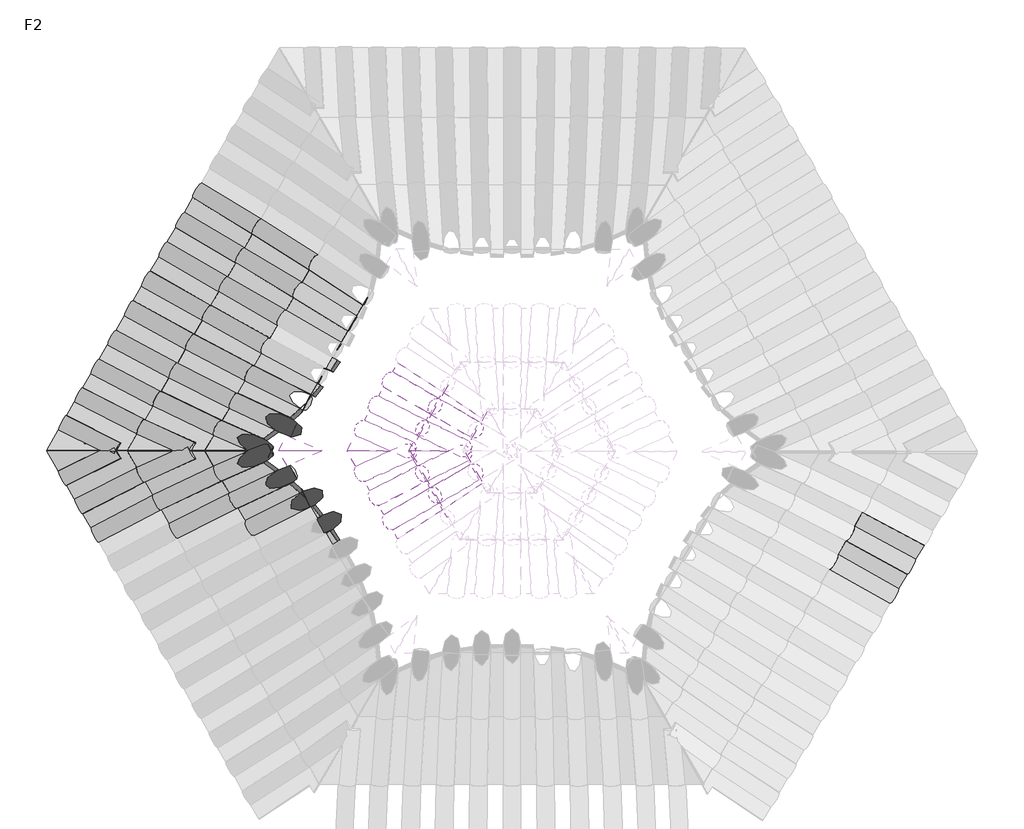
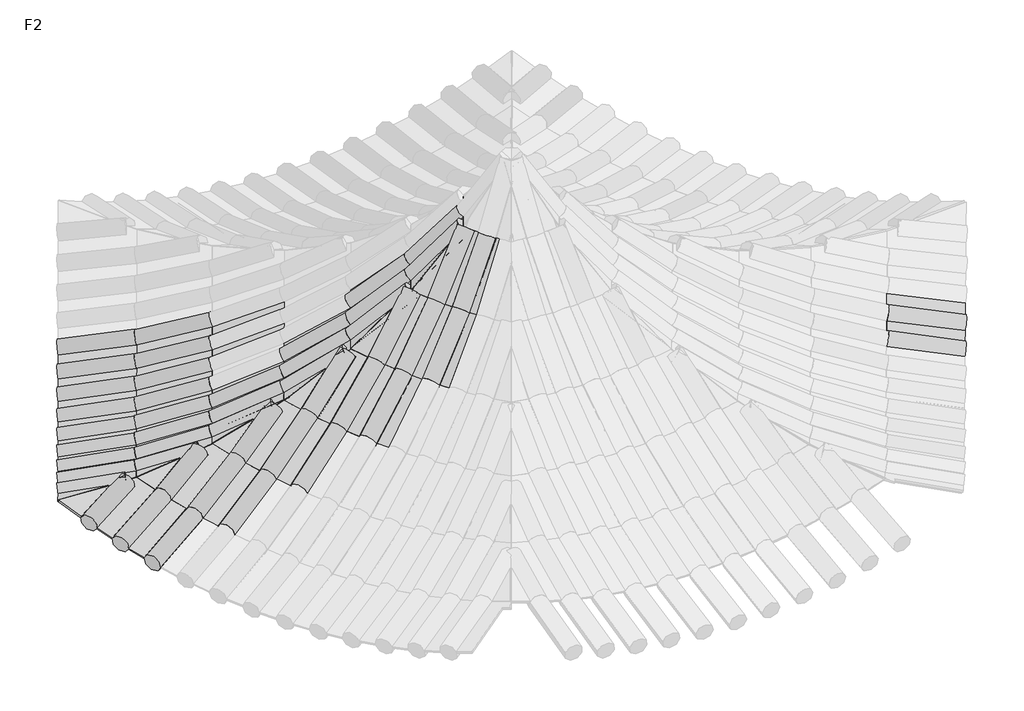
# One storey, part 3 of 6: 58 plates, 47 members.
"""IFC4 building model written with IfcOpenShell, lengths in millimetres."""

from ifc_helpers import new_model, si_unit, origin, place, context, project, spatial, transform, mapped, element, save
from components import member_7626b7be, member_26c271c4, member_52a6bcec, member_d07f44d0, member_52043cd3, member_28539939, member_fd67414a, member_29c24a8f, member_5ebe3699, member_5a0915c5, member_3b22838b, member_1e72f84d, member_f81221a5, member_02d8162e, member_7e32749a, member_c71233b3, member_69260188, member_985b398b, member_f4842659, member_5ab32efa, member_9361b17f, member_3c0b60bf, plate_0ebb438e, plate_6b57b127, plate_d3f52e52, plate_d213f6b1, plate_9638d80c, plate_89c366d1, plate_aaafe28a, plate_ecf98e0f, plate_a8a21952, plate_665b0e48, plate_f97c0013, plate_6a16cba0, plate_1539b490, plate_f5328a12, plate_b5858797, plate_013eb8b5, plate_6c5d32f2, plate_9ed079f8, plate_51358e00, plate_0b5f84b8, plate_823a82dc, plate_c055fcc8, plate_38bc2d65, plate_a3322e93, plate_fe606144, plate_ecea87b7, plate_f94965ac, plate_2cce4260

model = new_model("IFC4")

# Units and contexts
model_context = context("Model", 3, world=origin())
ifc_project = project(units=[si_unit("LENGTHUNIT", "METRE", prefix="MILLI")], contexts=[model_context])

# Site, building, storey
site = spatial("IfcSite", under=ifc_project)
building = spatial("IfcBuilding", under=site)
storey = spatial("IfcBuildingStorey", under=building, Name="F2", Elevation=4000.0)

# Members
placement = place(None, origin())
member_shape = member_7626b7be(model_context)
element("IfcMember", 1, ObjectType="矩形竖梃 : 圆瓦", at=placement, inside=storey, context=model_context, shape_type="MappedRepresentation", body=[
    mapped(member_shape, transform((-20261.6434663, 693.8322266, 4853.1986775), x_axis=(0.46663043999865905, -0.8097852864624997, -0.3556737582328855), y_axis=(0.036480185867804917, -0.3841760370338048, 0.9225388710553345), z_axis=(-0.8836997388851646, -0.4434597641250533, -0.14972711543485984))),
])
member_2_shape = member_26c271c4(model_context)
element("IfcMember", 2, ObjectType="矩形竖梃 : 圆瓦", at=placement, inside=storey, context=model_context, shape_type="MappedRepresentation", body=[
    mapped(member_2_shape, transform((-19386.5630225, 735.0285574, 4855.3516935), x_axis=(0.47652952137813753, -0.8269640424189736, -0.29841261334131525), y_axis=(-0.10789811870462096, -0.39187564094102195, 0.9136692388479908), z_axis=(-0.8725122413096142, -0.40319220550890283, -0.2759681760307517))),
])
member_3_shape = member_52a6bcec(model_context)
element("IfcMember", 3, ObjectType="矩形竖梃 : 圆瓦", at=placement, inside=storey, context=model_context, shape_type="MappedRepresentation", body=[
    mapped(member_3_shape, transform((-20081.1968982, 380.687255, 4728.0580377), x_axis=(0.4765295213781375, -0.8269640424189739, -0.29841261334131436), y_axis=(0.0005981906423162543, -0.339124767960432, 0.9407412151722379), z_axis=(-0.8791582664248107, -0.44846946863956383, -0.16110828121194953))),
])
member_4_shape = member_d07f44d0(model_context)
element("IfcMember", 4, ObjectType="矩形竖梃 : 圆瓦", at=placement, inside=storey, context=model_context, shape_type="MappedRepresentation", body=[
    mapped(member_4_shape, transform((-19206.5493399, 422.6348107, 4754.5081374), x_axis=(0.484678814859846, -0.8411062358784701, -0.2400557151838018), y_axis=(-0.14591576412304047, -0.3483495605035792, 0.9259379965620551), z_axis=(-0.8624355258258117, -0.4137546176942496, -0.2915683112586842))),
])
member_5_shape = member_52043cd3(model_context)
element("IfcMember", 5, ObjectType="矩形竖梃 : 圆瓦", at=placement, inside=storey, context=model_context, shape_type="MappedRepresentation", body=[
    mapped(member_5_shape, transform((-18525.1283095, 749.5474778, 4984.8798848), x_axis=(0.48467881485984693, -0.8411062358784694, -0.24005571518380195), y_axis=(-0.25290069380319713, -0.39747906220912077, 0.8820723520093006), z_axis=(-0.8373336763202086, -0.36681152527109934, -0.4053660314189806))),
])
member_6_shape = member_28539939(model_context)
element("IfcMember", 6, ObjectType="矩形竖梃 : 圆瓦", at=placement, inside=storey, context=model_context, shape_type="MappedRepresentation", body=[
    mapped(member_6_shape, transform((-19897.2972919, 61.5499194, 4625.0375895), x_axis=(0.4846788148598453, -0.8411062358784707, -0.24005571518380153), y_axis=(-0.02812004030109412, -0.28928746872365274, 0.9568291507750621), z_axis=(-0.8742400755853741, -0.45700444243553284, -0.16386344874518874))),
])
member_7_shape = member_fd67414a(model_context)
element("IfcMember", 7, ObjectType="矩形竖梃 : 圆瓦", at=placement, inside=storey, context=model_context, shape_type="MappedRepresentation", body=[
    mapped(member_7_shape, transform((-19023.8165838, 105.5224138, 4675.6876498), x_axis=(0.4910483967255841, -0.8521599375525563, -0.18081734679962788), y_axis=(-0.1741266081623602, -0.2993927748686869, 0.9381065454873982), z_axis=(-0.8535522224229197, -0.42917060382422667, -0.29540006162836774))),
])
element("IfcMember", 8, ObjectType="矩形竖梃 : 圆瓦", at=placement, inside=storey, context=model_context, shape_type="MappedRepresentation", body=[
    mapped(member_7_shape, transform((-18171.7309918, 136.2656951, 4854.7494012), x_axis=(0.4956148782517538, -0.8600845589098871, -0.12091502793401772), y_axis=(-0.3148441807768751, -0.3076567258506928, 0.8978978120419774), z_axis=(-0.8094683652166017, -0.406942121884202, -0.42327186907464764))),
])
element("IfcMember", 9, ObjectType="矩形竖梃 : 圆瓦", at=placement, inside=storey, context=model_context, shape_type="MappedRepresentation", body=[
    mapped(member_7_shape, transform((-17532.1599734, 457.7957246, 5189.1817669), x_axis=(0.49561487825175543, -0.8600845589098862, -0.1209150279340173), y_axis=(-0.4212672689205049, -0.3597903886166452, 0.8325171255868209), z_axis=(-0.7595391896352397, -0.36167033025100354, -0.5406429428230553))),
])
element("IfcMember", 10, ObjectType="矩形竖梃 : 圆瓦", at=placement, inside=storey, context=model_context, shape_type="MappedRepresentation", body=[
    mapped(member_7_shape, transform((-17363.3104134, 164.7760722, 5158.3526132), x_axis=(0.49836149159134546, -0.8648510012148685, -0.06056871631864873), y_axis=(-0.44653607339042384, -0.31593918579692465, 0.8371307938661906), z_axis=(-0.7431294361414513, -0.39014763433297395, -0.5436390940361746))),
])
element("IfcMember", 11, ObjectType="矩形竖梃 : 圆瓦", at=placement, inside=storey, context=model_context, shape_type="MappedRepresentation", body=[
    mapped(member_7_shape, transform((-16776.1546075, 473.0365682, 5587.8886197), x_axis=(0.498361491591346, -0.8648510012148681, -0.060568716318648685), y_axis=(-0.5427948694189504, -0.36572913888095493, 0.7560528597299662), z_axis=(-0.6760248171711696, -0.3439112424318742, -0.651702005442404))),
])
member_8_shape = member_29c24a8f(model_context)
element("IfcMember", 12, ObjectType="矩形竖梃 : 圆瓦", at=placement, inside=storey, context=model_context, shape_type="MappedRepresentation", body=[
    mapped(member_8_shape, transform((-18349.4143618, 444.6154432, 4909.0869108), x_axis=(0.4910483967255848, -0.8521599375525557, -0.18081734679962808), y_axis=(-0.2877914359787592, -0.3546037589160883, 0.8896247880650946), z_axis=(-0.8222211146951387, -0.3848111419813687, -0.4193719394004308))),
])
member_9_shape = member_5ebe3699(model_context)
element("IfcMember", 13, ObjectType="矩形竖梃 : 圆瓦", at=placement, inside=storey, context=model_context, shape_type="MappedRepresentation", body=[
    mapped(member_9_shape, transform((-17699.7672375, 748.6595103, 5240.4378936), x_axis=(0.49104839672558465, -0.8521599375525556, -0.1808173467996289), y_axis=(-0.3929321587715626, -0.40191931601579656, 0.8270823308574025), z_axis=(-0.7774804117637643, -0.33508850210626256, -0.5322028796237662))),
])
member_10_shape = member_5a0915c5(model_context)
element("IfcMember", 14, ObjectType="矩形竖梃 : 圆瓦", at=placement, inside=storey, context=model_context, shape_type="MappedRepresentation", body=[
    mapped(member_10_shape, transform((-16932.0386173, 743.5559487, 5616.3504772), x_axis=(0.4956148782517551, -0.8600845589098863, -0.12091502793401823), y_axis=(-0.5199734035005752, -0.405333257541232, 0.7518860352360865), z_axis=(-0.6956964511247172, -0.30977330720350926, -0.6481102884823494))),
])
element("IfcMember", 15, ObjectType="矩形竖梃 : 圆瓦", at=placement, inside=storey, context=model_context, shape_type="MappedRepresentation", body=[
    mapped(member_10_shape, transform((-16242.0189954, 744.7651163, 6102.8064759), x_axis=(0.49836149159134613, -0.864851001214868, -0.060568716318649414), y_axis=(-0.6291105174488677, -0.40881950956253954, 0.6611252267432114), z_axis=(-0.5965364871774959, -0.29137493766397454, -0.7478267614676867))),
])
member_11_shape = member_3b22838b(model_context)
element("IfcMember", 16, ObjectType="矩形竖梃 : 圆瓦", at=placement, inside=storey, context=model_context, shape_type="MappedRepresentation", body=[
    mapped(member_11_shape, transform((-10972.9771025, -619.8556772, 4486.7877946), x_axis=(0.5016108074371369, 0.8566015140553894, 0.12091502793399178), y_axis=(0.08543865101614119, -0.1881416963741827, 0.9784185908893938), z_axis=(0.8608640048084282, -0.48045452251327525, -0.167560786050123))),
])
element("IfcMember", 17, ObjectType="矩形竖梃 : 圆瓦", at=placement, inside=storey, context=model_context, shape_type="MappedRepresentation", body=[
    mapped(member_11_shape, transform((-10781.9236967, -293.593495, 4544.5156178), x_axis=(0.4969890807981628, 0.8487089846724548, 0.18081734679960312), y_axis=(0.05560326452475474, -0.2390916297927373, 0.9694036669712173), z_axis=(0.8659735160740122, -0.47172900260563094, -0.16601691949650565))),
])
element("IfcMember", 18, ObjectType="矩形竖梃 : 圆瓦", at=placement, inside=storey, context=model_context, shape_type="MappedRepresentation", body=[
    mapped(member_11_shape, transform((-19137.0617859, 3248.7516908, 4440.4780088), x_axis=(-0.5007215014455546, -0.865608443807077, 0.0), y_axis=(-0.14611409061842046, 0.08452143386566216, 0.9856504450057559), z_axis=(-0.8531873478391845, 0.4935363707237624, -0.16879928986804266))),
])
element("IfcMember", 19, ObjectType="矩形竖梃 : 圆瓦", at=placement, inside=storey, context=model_context, shape_type="MappedRepresentation", body=[
    mapped(member_11_shape, transform((-19328.4832565, 2917.837119, 4452.0660929), x_axis=(-0.4998021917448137, -0.8640192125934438, 0.06056871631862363), y_axis=(-0.11622122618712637, 0.13619789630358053, 0.983840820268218), z_axis=(-0.8583067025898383, 0.48468642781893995, -0.16848937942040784))),
])
element("IfcMember", 20, ObjectType="矩形竖梃 : 圆瓦", at=placement, inside=storey, context=model_context, shape_type="MappedRepresentation", body=[
    mapped(member_11_shape, transform((-19519.2018389, 2588.1376457, 4486.7877946), x_axis=(-0.4970476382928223, -0.8592573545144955, 0.12091502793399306), y_axis=(-0.08643812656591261, 0.18768460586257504, 0.9784185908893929), z_axis=(-0.8634072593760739, 0.47586898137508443, -0.1675607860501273))),
])
element("IfcMember", 21, ObjectType="矩形竖梃 : 圆瓦", at=placement, inside=storey, context=model_context, shape_type="MappedRepresentation", body=[
    mapped(member_11_shape, transform((-19708.5172259, 2260.8639076, 4544.5156178), x_axis=(-0.4924679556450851, -0.8513403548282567, 0.18081734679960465), y_axis=(-0.05687415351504, 0.23879250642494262, 0.9694036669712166), z_axis=(-0.8684702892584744, 0.46711640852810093, -0.1660169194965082))),
])
element("IfcMember", 22, ObjectType="矩形竖梃 : 圆瓦", at=placement, inside=storey, context=model_context, shape_type="MappedRepresentation", body=[
    mapped(member_11_shape, transform((-19895.7342626, 1937.2176344, 4625.0375895), x_axis=(-0.4860799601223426, -0.8402972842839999, 0.24005571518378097), y_axis=(-0.02763786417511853, 0.2893339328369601, 0.9568291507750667), z_axis=(-0.8734772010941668, 0.45846084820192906, -0.16386344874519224))),
])
member_12_shape = member_1e72f84d(model_context)
element("IfcMember", 23, ObjectType="矩形竖梃 : 圆瓦", at=placement, inside=storey, context=model_context, shape_type="MappedRepresentation", body=[
    mapped(member_12_shape, transform((-20080.1654995, 1618.3872358, 4728.0580377), x_axis=(-0.47790710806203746, -0.8261686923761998, 0.2984126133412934), y_axis=(0.0011633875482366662, 0.3391233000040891, 0.9407412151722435), z_axis=(-0.8784096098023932, 0.4499340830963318, -0.16110828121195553))),
])
member_13_shape = member_f81221a5(model_context)
element("IfcMember", 24, ObjectType="矩形竖梃 : 圆瓦", at=placement, inside=storey, context=model_context, shape_type="MappedRepresentation", body=[
    mapped(member_13_shape, transform((-16619.6960914, 201.5201959, 5578.3897074), x_axis=(0.49927815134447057, -0.8664417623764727, 0.0), y_axis=(-0.5657004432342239, -0.32597906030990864, 0.7574435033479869), z_axis=(-0.6562806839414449, -0.37817499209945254, -0.6529007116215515))),
])
element("IfcMember", 25, ObjectType="矩形竖梃 : 圆瓦", at=placement, inside=storey, context=model_context, shape_type="MappedRepresentation", body=[
    mapped(member_13_shape, transform((-16101.1605644, 500.3209585, 6094.2546763), x_axis=(0.4992781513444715, -0.8664417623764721, 0.0), y_axis=(-0.6491401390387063, -0.37406032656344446, 0.6623412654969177), z_axis=(-0.5738801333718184, -0.33069252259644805, -0.7492022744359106))),
])
member_14_shape = member_02d8162e(model_context)
element("IfcMember", 26, ObjectType="矩形竖梃 : 圆瓦", at=placement, inside=storey, context=model_context, shape_type="MappedRepresentation", body=[
    mapped(member_14_shape, transform((-18462.9478559, 2858.8024688, 4573.8484261), x_axis=(-0.5007215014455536, -0.8656084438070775, 0.0), y_axis=(-0.2599862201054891, 0.1503921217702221, 0.9538287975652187), z_axis=(-0.8256422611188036, 0.4776025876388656, -0.3003508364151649))),
])
element("IfcMember", 27, ObjectType="矩形竖梃 : 圆瓦", at=placement, inside=storey, context=model_context, shape_type="MappedRepresentation", body=[
    mapped(member_14_shape, transform((-18650.3244606, 2534.8803469, 4585.1916462), x_axis=(-0.49980219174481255, -0.8640192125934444, 0.06056871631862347), y_axis=(-0.23105844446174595, 0.2004002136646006, 0.9520775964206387), z_axis=(-0.8347513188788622, 0.46185555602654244, -0.29979940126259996))),
])
element("IfcMember", 28, ObjectType="矩形竖梃 : 圆瓦", at=placement, inside=storey, context=model_context, shape_type="MappedRepresentation", body=[
    mapped(member_14_shape, transform((-18837.0130297, 2212.1476477, 4619.1796547), x_axis=(-0.49704763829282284, -0.8592573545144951, 0.12091502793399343), y_axis=(-0.20223688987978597, 0.2502246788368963, 0.9468304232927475), z_axis=(-0.8438269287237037, 0.44616634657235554, -0.29814712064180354))),
])
element("IfcMember", 29, ObjectType="矩形竖梃 : 圆瓦", at=placement, inside=storey, context=model_context, shape_type="MappedRepresentation", body=[
    mapped(member_14_shape, transform((-19022.3280538, 1891.7894262, 4675.6876498), x_axis=(-0.49246795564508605, -0.8513403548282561, 0.1808173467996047), y_axis=(-0.173627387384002, 0.2996825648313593, 0.9381065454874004), z_axis=(-0.8528357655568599, 0.43059256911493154, -0.2954000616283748))),
])
element("IfcMember", 30, ObjectType="矩形竖梃 : 圆瓦", at=placement, inside=storey, context=model_context, shape_type="MappedRepresentation", body=[
    mapped(member_14_shape, transform((-18170.2948831, 1859.6260706, 4854.7494012), x_axis=(-0.49704763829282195, -0.8592573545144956, 0.12091502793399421), y_axis=(-0.3143309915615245, 0.3081810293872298, 0.8978978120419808), z_axis=(-0.8087890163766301, 0.40829064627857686, -0.42327186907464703))),
])
element("IfcMember", 31, ObjectType="矩形竖梃 : 圆瓦", at=placement, inside=storey, context=model_context, shape_type="MappedRepresentation", body=[
    mapped(member_14_shape, transform((-17361.9229439, 1829.7683899, 5158.3526132), x_axis=(-0.4998021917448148, -0.8640192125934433, 0.06056871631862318), y_axis=(-0.4460088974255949, 0.31668296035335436, 0.8371307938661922), z_axis=(-0.7424781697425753, 0.39138561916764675, -0.543639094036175))),
])
element("IfcMember", 32, ObjectType="矩形竖梃 : 圆瓦", at=placement, inside=storey, context=model_context, shape_type="MappedRepresentation", body=[
    mapped(member_14_shape, transform((-17531.2606267, 1537.0305553, 5189.1817669), x_axis=(-0.49704763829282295, -0.8592573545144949, 0.12091502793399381), y_axis=(-0.420667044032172, 0.3604919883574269, 0.8325171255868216), z_axis=(-0.758935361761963, 0.3629357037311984, -0.5406429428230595))),
])
element("IfcMember", 33, ObjectType="矩形竖梃 : 圆瓦", at=placement, inside=storey, context=model_context, shape_type="MappedRepresentation", body=[
    mapped(member_14_shape, transform((-16618.3708938, 1791.7849823, 5578.3897074), x_axis=(-0.5007215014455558, -0.8656084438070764, 0.0), y_axis=(-0.5651563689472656, 0.32692142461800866, 0.7574435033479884), z_axis=(-0.6556494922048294, 0.3792682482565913, -0.6529007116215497))),
])
element("IfcMember", 34, ObjectType="矩形竖梃 : 圆瓦", at=placement, inside=storey, context=model_context, shape_type="MappedRepresentation", body=[
    mapped(member_14_shape, transform((-16775.2817117, 1520.5297466, 5587.8886197), x_axis=(-0.49980219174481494, -0.864019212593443, 0.060568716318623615), y_axis=(-0.5421845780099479, 0.366633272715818, 0.7560528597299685), z_axis=(-0.6754507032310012, 0.3450374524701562, -0.6517020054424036))),
])
element("IfcMember", 35, ObjectType="矩形竖梃 : 圆瓦", at=placement, inside=storey, context=model_context, shape_type="MappedRepresentation", body=[
    mapped(member_14_shape, transform((-16100.3340792, 1492.1204245, 6094.2546763), x_axis=(-0.5007215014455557, -0.8656084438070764, 0.0), y_axis=(-0.6485158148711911, 0.3751416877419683, 0.6623412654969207), z_axis=(-0.5733281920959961, 0.33164851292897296, -0.749202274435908))),
])
member_15_shape = member_7e32749a(model_context)
element("IfcMember", 36, ObjectType="矩形竖梃 : 圆瓦", at=placement, inside=storey, context=model_context, shape_type="MappedRepresentation", body=[
    mapped(member_15_shape, transform((-19205.5890673, 1574.9820188, 4754.5081374), x_axis=(-0.48607996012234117, -0.8402972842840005, 0.24005571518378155), y_axis=(-0.14533498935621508, 0.3485922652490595, 0.9259379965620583), z_axis=(-0.8617447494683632, 0.41519140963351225, -0.2915683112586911))),
])
member_16_shape = member_c71233b3(model_context)
element("IfcMember", 37, ObjectType="矩形竖梃 : 圆瓦", at=placement, inside=storey, context=model_context, shape_type="MappedRepresentation", body=[
    mapped(member_16_shape, transform((-18348.4919132, 1551.5728844, 4909.0869108), x_axis=(-0.4924679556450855, -0.8513403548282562, 0.18081734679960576), y_axis=(-0.2872000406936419, 0.3550829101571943, 0.8896247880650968), z_axis=(-0.8215786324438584, 0.38618095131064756, -0.41937193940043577))),
])
member_17_shape = member_69260188(model_context)
element("IfcMember", 38, ObjectType="矩形竖梃 : 圆瓦", at=placement, inside=storey, context=model_context, shape_type="MappedRepresentation", body=[
    mapped(member_17_shape, transform((-17699.3524222, 1246.4465139, 5240.4378936), x_axis=(-0.49246795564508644, -0.8513403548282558, 0.18081734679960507), y_axis=(-0.39226364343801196, 0.4025744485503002, 0.8270810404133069), z_axis=(-0.776919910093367, 0.33638283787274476, -0.5322048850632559))),
])
member_18_shape = member_985b398b(model_context)
element("IfcMember", 39, ObjectType="矩形竖梃 : 圆瓦", at=placement, inside=storey, context=model_context, shape_type="MappedRepresentation", body=[
    mapped(member_18_shape, transform((-16931.6163625, 1250.2705439, 5616.3504772), x_axis=(-0.4970476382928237, -0.8592573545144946, 0.12091502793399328), y_axis=(-0.519297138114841, 0.40619930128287, 0.7518860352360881), z_axis=(-0.6951792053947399, 0.3109323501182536, -0.6481102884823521))),
])
element("IfcMember", 40, ObjectType="矩形竖梃 : 圆瓦", at=placement, inside=storey, context=model_context, shape_type="MappedRepresentation", body=[
    mapped(member_18_shape, transform((-16241.5997141, 1247.911366, 6102.8064759), x_axis=(-0.4998021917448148, -0.8640192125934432, 0.06056871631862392), y_axis=(-0.6284282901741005, 0.40986744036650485, 0.6611252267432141), z_axis=(-0.5960500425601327, 0.29236874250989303, -0.7478267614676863))),
])
member_19_shape = member_f4842659(model_context)
element("IfcMember", 41, ObjectType="矩形竖梃 : 圆瓦", at=placement, inside=storey, context=model_context, shape_type="MappedRepresentation", body=[
    mapped(member_19_shape, transform((-19386.1231467, 1262.8887233, 4855.3516935), x_axis=(-0.47790710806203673, -0.8261686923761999, 0.29841261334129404), y_axis=(-0.10724608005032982, 0.39205549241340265, 0.9136688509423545), z_axis=(-0.8718389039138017, 0.4046452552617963, -0.2759694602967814))),
])
member_20_shape = member_5ab32efa(model_context)
element("IfcMember", 42, ObjectType="矩形竖梃 : 圆瓦", at=placement, inside=storey, context=model_context, shape_type="MappedRepresentation", body=[
    mapped(member_20_shape, transform((-18524.7138278, 1246.9341246, 4984.8798848), x_axis=(-0.4860799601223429, -0.8402972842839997, 0.2400557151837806), y_axis=(-0.2522394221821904, 0.3979006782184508, 0.8820716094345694), z_axis=(-0.836720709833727, 0.36820581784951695, -0.40536764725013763))),
])
member_21_shape = member_9361b17f(model_context)
element("IfcMember", 43, ObjectType="矩形竖梃 : 圆瓦", at=placement, inside=storey, context=model_context, shape_type="MappedRepresentation", body=[
    mapped(member_21_shape, transform((-20261.1337159, 1305.543438, 4853.1986775), x_axis=(-0.46797940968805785, -0.8090064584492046, 0.35567375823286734), y_axis=(0.037119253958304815, 0.3841152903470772, 0.9225386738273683), z_axis=(-0.8829594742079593, 0.44493144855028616, -0.14972833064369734))),
])
element("IfcMember", 44, ObjectType="矩形竖梃 : 圆瓦", at=placement, inside=storey, context=model_context, shape_type="MappedRepresentation", body=[
    mapped(member_6_shape, transform((-18754.921733, 3909.3657359, 4486.7877946), x_axis=(-0.49704763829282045, -0.859257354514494, -0.12091502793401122), y_axis=(-0.20579005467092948, -0.01864173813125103, 0.9784185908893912), z_axis=(-0.842967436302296, 0.5112037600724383, -0.16756078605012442))),
])
element("IfcMember", 45, ObjectType="矩形竖梃 : 圆瓦", at=placement, inside=storey, context=model_context, shape_type="MappedRepresentation", body=[
    mapped(member_6_shape, transform((-18945.6403154, 3579.6662626, 4452.0660929), x_axis=(-0.4998021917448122, -0.8640192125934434, -0.060568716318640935), y_axis=(-0.17600695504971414, 0.03284497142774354, 0.9838408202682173), z_axis=(-0.8480679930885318, 0.5023863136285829, -0.16848937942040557))),
])
member_22_shape = member_3c0b60bf(model_context)
element("IfcMember", 46, ObjectType="矩形竖梃 : 圆瓦", at=placement, inside=storey, context=model_context, shape_type="MappedRepresentation", body=[
    mapped(member_22_shape, transform((-18088.8826821, 3505.45729, 4619.1796547), x_axis=(-0.497047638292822, -0.859257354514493, -0.12091502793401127), y_axis=(-0.3177355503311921, 0.0505595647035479, 0.9468304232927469), z_axis=(-0.8074575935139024, 0.5090388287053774, -0.2981471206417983))),
])
element("IfcMember", 47, ObjectType="矩形竖梃 : 圆瓦", at=placement, inside=storey, context=model_context, shape_type="MappedRepresentation", body=[
    mapped(member_22_shape, transform((-18275.5712511, 3182.7245907, 4585.1916462), x_axis=(-0.4998021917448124, -0.8640192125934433, -0.06056871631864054), y_axis=(-0.2889139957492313, 0.10038402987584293, 0.9520775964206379), z_axis=(-0.8165332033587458, 0.4933496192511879, -0.2997994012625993))),
])

# Plates
plate_shape = plate_0ebb438e(model_context)
element("IfcPlate", 48, ObjectType="空系统嵌板 : 空", at=placement, inside=storey, context=model_context, shape_type="MappedRepresentation", body=[
    mapped(plate_shape, transform((-20194.221904, 576.8295957, 4806.441471), x_axis=(0.47179658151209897, -0.8187505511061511, -0.32719339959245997), y_axis=(-0.014828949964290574, 0.3636698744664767, -0.9314098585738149), z_axis=(0.8815827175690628, 0.4442879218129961, 0.1594369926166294))),
])
plate_2_shape = plate_6b57b127(model_context)
element("IfcPlate", 49, ObjectType="空系统嵌板 : 空", at=placement, inside=storey, context=model_context, shape_type="MappedRepresentation", body=[
    mapped(plate_2_shape, transform((-10877.4503996, -456.7245861, 4515.6517062), x_axis=(0.49952927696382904, 0.8530468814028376, 0.15093548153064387), y_axis=(-0.07042049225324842, 0.21363923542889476, -0.9743711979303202), z_axis=(-0.8634300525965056, 0.4760979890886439, 0.16679103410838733))),
])
element("IfcPlate", 50, ObjectType="空系统嵌板 : 空", at=placement, inside=storey, context=model_context, shape_type="MappedRepresentation", body=[
    mapped(plate_2_shape, transform((-10687.4558009, -132.2705304, 4584.7766036), x_axis=(0.4939925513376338, 0.8435918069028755, 0.21053318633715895), y_axis=(-0.040736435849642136, 0.2643307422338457, -0.9635713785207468), z_axis=(-0.8685113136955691, 0.4674207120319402, 0.16494234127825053))),
])
element("IfcPlate", 51, ObjectType="空系统嵌板 : 空", at=placement, inside=storey, context=model_context, shape_type="MappedRepresentation", body=[
    mapped(plate_2_shape, transform((-18850.2810242, 3744.5159993, 4469.4269438), x_axis=(-0.4986538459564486, -0.8620340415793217, -0.09078355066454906), y_axis=(0.1908544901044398, -0.0070273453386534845, -0.9815931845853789), z_axis=(0.8455287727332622, -0.5068016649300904, 0.16802728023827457))),
])
element("IfcPlate", 52, ObjectType="空系统嵌板 : 空", at=placement, inside=storey, context=model_context, shape_type="MappedRepresentation", body=[
    mapped(plate_2_shape, transform((-19041.3510507, 3414.2089767, 4446.2720508), x_axis=(-0.5004916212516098, -0.8652110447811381, -0.03029826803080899), y_axis=(0.16100241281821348, -0.05863329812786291, -0.9852108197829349), z_axis=(0.8506387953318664, -0.4979678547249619, 0.1686465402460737))),
])
element("IfcPlate", 53, ObjectType="空系统嵌板 : 空", at=placement, inside=storey, context=model_context, shape_type="MappedRepresentation", body=[
    mapped(plate_2_shape, transform((-19232.7725212, 3083.2944049, 4446.2720508), x_axis=(-0.5004916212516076, -0.8652110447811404, 0.03029826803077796), y_axis=(0.13109542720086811, -0.11033417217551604, -0.9852108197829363), z_axis=(0.855758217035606, -0.489117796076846, 0.16864654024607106))),
])
element("IfcPlate", 54, ObjectType="空系统嵌板 : 空", at=placement, inside=storey, context=model_context, shape_type="MappedRepresentation", body=[
    mapped(plate_2_shape, transform((-19423.8425477, 2752.9873823, 4469.4269438), x_axis=(-0.49865384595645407, -0.8620340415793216, 0.09078355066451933), y_axis=(0.10124334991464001, -0.16194012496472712, -0.9815931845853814), z_axis=(0.8608682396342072, -0.48028398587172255, 0.16802728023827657))),
])
element("IfcPlate", 55, ObjectType="空系统嵌板 : 空", at=placement, inside=storey, context=model_context, shape_type="MappedRepresentation", body=[
    mapped(plate_2_shape, transform((-19613.8595324, 2424.5007767, 4515.6517062), x_axis=(-0.49498504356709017, -0.8556917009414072, 0.15093548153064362), y_axis=(0.07155579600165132, -0.21326166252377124, -0.9743711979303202), z_axis=(0.8659500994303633, -0.4714988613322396, 0.16679103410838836))),
])
element("IfcPlate", 56, ObjectType="空系统嵌板 : 空", at=placement, inside=storey, context=model_context, shape_type="MappedRepresentation", body=[
    mapped(plate_2_shape, transform((-19802.1257442, 2099.040771, 4584.7766036), x_axis=(-0.4894986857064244, -0.8462073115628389, 0.21053318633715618), y_axis=(0.04214177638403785, -0.2641103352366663, -0.9635713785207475), z_axis=(0.8709851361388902, -0.46279468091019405, 0.16494234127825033))),
])
element("IfcPlate", 57, ObjectType="空系统嵌板 : 空", at=placement, inside=storey, context=model_context, shape_type="MappedRepresentation", body=[
    mapped(plate_2_shape, transform((-19987.949881, 1777.8024351, 4676.5478136), x_axis=(-0.4822149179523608, -0.8336156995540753, 0.2693578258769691), y_axis=(0.01310929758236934, -0.31429942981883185, -0.9492333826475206), z_axis=(0.8759548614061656, -0.4542034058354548, 0.16248799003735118))),
])
element("IfcPlate", 58, ObjectType="空系统嵌板 : 空", at=placement, inside=storey, context=model_context, shape_type="MappedRepresentation", body=[
    mapped(plate_2_shape, transform((-19989.2470951, 221.1185872, 4676.5478136), x_axis=(0.4808249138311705, -0.8344182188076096, -0.2693578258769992), y_axis=(0.013633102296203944, 0.31427714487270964, -0.9492333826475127), z_axis=(0.8767106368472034, 0.4527428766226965, 0.16248799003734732))),
])
plate_3_shape = plate_d3f52e52(model_context)
element("IfcPlate", 59, ObjectType="空系统嵌板 : 空", at=placement, inside=storey, context=model_context, shape_type="MappedRepresentation", body=[
    mapped(plate_3_shape, transform((-19486.4832076, 907.6463015, 4924.281917), x_axis=(0.4717965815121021, -0.81875055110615, -0.3271933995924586), y_axis=(0.10430338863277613, 0.42031193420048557, -0.9013648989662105), z_axis=(0.8755162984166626, 0.39113349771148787, 0.283700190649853))),
])
plate_4_shape = plate_d213f6b1(model_context)
element("IfcPlate", 60, ObjectType="空系统嵌板 : 空", at=placement, inside=storey, context=model_context, shape_type="MappedRepresentation", body=[
    mapped(plate_4_shape, transform((-19319.2222176, 618.1660721, 4817.6274153), x_axis=(0.48082491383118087, -0.8344182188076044, -0.2693578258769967), y_axis=(0.1318473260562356, 0.3725124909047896, -0.9186134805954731), z_axis=(0.8668469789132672, 0.4061781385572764, 0.2891290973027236))),
])
plate_5_shape = plate_9638d80c(model_context)
element("IfcPlate", 61, ObjectType="空系统嵌板 : 空", at=placement, inside=storey, context=model_context, shape_type="MappedRepresentation", body=[
    mapped(plate_5_shape, transform((-18182.2269666, 3344.0909404, 4602.1856505), x_axis=(-0.4986538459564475, -0.862034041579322, -0.09078355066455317), y_axis=(0.3032378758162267, -0.07537146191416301, -0.9499294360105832), z_axis=(0.8120290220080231, -0.5012149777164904, 0.2989856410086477))),
])
element("IfcPlate", 62, ObjectType="空系统嵌板 : 空", at=placement, inside=storey, context=model_context, shape_type="MappedRepresentation", body=[
    mapped(plate_5_shape, transform((-18369.2595535, 3020.7635298, 4579.5200362), x_axis=(-0.5004916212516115, -0.8652110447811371, -0.03029826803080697), y_axis=(0.2743487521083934, -0.12531273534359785, -0.9534303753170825), z_axis=(0.8211217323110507, -0.4854962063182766, 0.3000875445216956))),
])
element("IfcPlate", 63, ObjectType="空系统嵌板 : 空", at=placement, inside=storey, context=model_context, shape_type="MappedRepresentation", body=[
    mapped(plate_5_shape, transform((-18556.6361582, 2696.8414079, 4579.5200362), x_axis=(-0.5004916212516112, -0.8652110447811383, 0.030298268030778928), y_axis=(0.24540649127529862, -0.1753458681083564, -0.953430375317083), z_axis=(0.8302311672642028, -0.46974852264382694, 0.3000875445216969))),
])
element("IfcPlate", 64, ObjectType="空系统嵌板 : 空", at=placement, inside=storey, context=model_context, shape_type="MappedRepresentation", body=[
    mapped(plate_5_shape, transform((-18743.6687451, 2373.5139973, 4602.1856505), x_axis=(-0.4986538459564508, -0.862034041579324, 0.09078355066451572), y_axis=(0.21651736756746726, -0.22528714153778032, -0.9499294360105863), z_axis=(0.8393238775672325, -0.45402975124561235, 0.29898564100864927))),
])
element("IfcPlate", 65, ObjectType="空系统嵌板 : 空", at=placement, inside=storey, context=model_context, shape_type="MappedRepresentation", body=[
    mapped(plate_5_shape, transform((-18929.6705417, 2051.9685369, 4647.4336523), x_axis=(-0.4949850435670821, -0.8556917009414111, 0.15093548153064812), y_axis=(0.1877874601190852, -0.274953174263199, -0.9429404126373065), z_axis=(0.8483664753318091, -0.43839761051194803, 0.2967858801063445))),
])
element("IfcPlate", 66, ObjectType="空系统嵌板 : 空", at=placement, inside=storey, context=model_context, shape_type="MappedRepresentation", body=[
    mapped(plate_5_shape, transform((-19113.9585605, 1733.3857225, 4715.0978936), x_axis=(-0.4894986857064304, -0.8462073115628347, 0.2105331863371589), y_axis=(0.1593222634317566, -0.3241615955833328, -0.9324889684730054), z_axis=(0.8573257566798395, -0.4229095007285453, 0.2934963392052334))),
])
element("IfcPlate", 67, ObjectType="空系统嵌板 : 空", at=placement, inside=storey, context=model_context, shape_type="MappedRepresentation", body=[
    mapped(plate_5_shape, transform((-19115.1829619, 264.0786123, 4715.0978936), x_axis=(0.488087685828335, -0.847021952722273, -0.2105331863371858), y_axis=(0.15986230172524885, 0.3238956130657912, -0.9324889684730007), z_axis=(0.8580294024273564, 0.4214800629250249, 0.29349633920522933))),
])
plate_6_shape = plate_89c366d1(model_context)
element("IfcPlate", 68, ObjectType="空系统嵌板 : 空", at=placement, inside=storey, context=model_context, shape_type="MappedRepresentation", body=[
    mapped(plate_6_shape, transform((-18621.3148051, 915.2633919, 5038.1770919), x_axis=(0.4808249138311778, -0.8344182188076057, -0.2693578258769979), y_axis=(0.24765634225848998, 0.42393291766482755, -0.8711757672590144), z_axis=(0.8411145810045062, 0.3521748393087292, 0.4104864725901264))),
])
plate_7_shape = plate_aaafe28a(model_context)
element("IfcPlate", 69, ObjectType="空系统嵌板 : 空", at=placement, inside=storey, context=model_context, shape_type="MappedRepresentation", body=[
    mapped(plate_7_shape, transform((-18437.6730686, 597.7786235, 4947.1566825), x_axis=(0.48808768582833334, -0.8470219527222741, -0.21053318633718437), y_axis=(0.27422460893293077, 0.37782664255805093, -0.8843347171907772), z_axis=(0.8285959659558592, 0.37389950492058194, 0.41668679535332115))),
])
plate_8_shape = plate_ecf98e0f(model_context)
element("IfcPlate", 70, ObjectType="空系统嵌板 : 空", at=placement, inside=storey, context=model_context, shape_type="MappedRepresentation", body=[
    mapped(plate_8_shape, transform((-17540.6593078, 2948.0911533, 4838.4081407), x_axis=(-0.49865384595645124, -0.86203404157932, -0.09078355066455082), y_axis=(0.4100782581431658, -0.14234067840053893, -0.9008745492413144), z_axis=(0.7636623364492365, -0.4864529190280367, 0.42448014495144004))),
])
element("IfcPlate", 71, ObjectType="空系统嵌板 : 空", at=placement, inside=storey, context=model_context, shape_type="MappedRepresentation", body=[
    mapped(plate_8_shape, transform((-17720.5079288, 2637.1828252, 4816.613118), x_axis=(-0.5004916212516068, -0.8652110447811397, -0.030298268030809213), y_axis=(0.3826809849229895, -0.1897029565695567, -0.9041946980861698), z_axis=(0.7765715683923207, -0.464136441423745, 0.42604455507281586))),
])
element("IfcPlate", 72, ObjectType="空系统嵌板 : 空", at=placement, inside=storey, context=model_context, shape_type="MappedRepresentation", body=[
    mapped(plate_8_shape, transform((-18080.5359747, 2014.7943005, 4838.4081407), x_axis=(-0.49865384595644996, -0.8620340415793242, 0.09078355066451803), y_axis=(0.32783604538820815, -0.28451462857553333, -0.9008745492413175), z_axis=(0.8024137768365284, -0.4194624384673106, 0.42448014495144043))),
])
element("IfcPlate", 73, ObjectType="空系统嵌板 : 空", at=placement, inside=storey, context=model_context, shape_type="MappedRepresentation", body=[
    mapped(plate_8_shape, transform((-18259.3933982, 1705.5994775, 4881.918156), x_axis=(-0.4949850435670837, -0.8556917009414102, 0.15093548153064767), y_axis=(0.30058976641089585, -0.331615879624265, -0.894246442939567), z_axis=(0.8152518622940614, -0.3972689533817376, 0.4213570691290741))),
])
element("IfcPlate", 74, ObjectType="空系统嵌板 : 空", at=placement, inside=storey, context=model_context, shape_type="MappedRepresentation", body=[
    mapped(plate_8_shape, transform((-18260.5726768, 290.4405691, 4881.918156), x_axis=(0.49355822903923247, -0.8565154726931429, -0.15093548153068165), y_axis=(0.30114203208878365, 0.33111444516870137, -0.8942464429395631), z_axis=(0.8159128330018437, 0.3959096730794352, 0.4213570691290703))),
])
plate_9_shape = plate_a8a21952(model_context)
element("IfcPlate", 75, ObjectType="空系统嵌板 : 空", at=placement, inside=storey, context=model_context, shape_type="MappedRepresentation", body=[
    mapped(plate_9_shape, transform((-17796.3707579, 915.2045428, 5281.5374011), x_axis=(0.4880876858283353, -0.8470219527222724, -0.2105331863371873), y_axis=(0.38357704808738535, 0.4248452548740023, -0.8199848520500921), z_axis=(0.783989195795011, 0.31946881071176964, 0.5322599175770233))),
])
plate_10_shape = plate_665b0e48(model_context)
element("IfcPlate", 76, ObjectType="空系统嵌板 : 空", at=placement, inside=storey, context=model_context, shape_type="MappedRepresentation", body=[
    mapped(plate_10_shape, transform((-17616.1817645, 603.6062083, 5214.8765457), x_axis=(0.4935582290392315, -0.8565154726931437, -0.15093548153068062), y_axis=(0.4085357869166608, 0.3815321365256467, -0.8291753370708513), z_axis=(0.7677882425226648, 0.34758376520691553, 0.5382255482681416))),
])
plate_11_shape = plate_f97c0013(model_context)
element("IfcPlate", 77, ObjectType="空系统嵌板 : 空", at=placement, inside=storey, context=model_context, shape_type="MappedRepresentation", body=[
    mapped(plate_11_shape, transform((-17029.9672295, 913.0002518, 5646.0144329), x_axis=(0.49355822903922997, -0.8565154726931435, -0.15093548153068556), y_axis=(0.5084602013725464, 0.42496860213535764, -0.7489124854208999), z_axis=(0.7055979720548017, 0.29288723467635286, 0.6452507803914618))),
])
plate_12_shape = plate_6a16cba0(model_context)
element("IfcPlate", 78, ObjectType="空系统嵌板 : 空", at=placement, inside=storey, context=model_context, shape_type="MappedRepresentation", body=[
    mapped(plate_12_shape, transform((-17276.9420578, 1976.6767459, 5153.2081241), x_axis=(-0.5004916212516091, -0.8652110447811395, 0.030298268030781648), y_axis=(0.45856668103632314, -0.29462273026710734, -0.8383996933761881), z_axis=(0.7343192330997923, -0.40571824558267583, 0.5442131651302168))),
])
element("IfcPlate", 79, ObjectType="空系统嵌板 : 空", at=placement, inside=storey, context=model_context, shape_type="MappedRepresentation", body=[
    mapped(plate_12_shape, transform((-17446.5917853, 1683.3994726, 5173.76719), x_axis=(-0.498653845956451, -0.862034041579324, 0.090783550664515), y_axis=(0.43316300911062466, -0.33853862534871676, -0.8353211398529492), z_axis=(0.7508089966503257, -0.3772120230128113, 0.5422148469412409))),
])
element("IfcPlate", 80, ObjectType="空系统嵌板 : 空", at=placement, inside=storey, context=model_context, shape_type="MappedRepresentation", body=[
    mapped(plate_12_shape, transform((-17447.7351934, 311.2858984, 5173.76719), x_axis=(0.4972164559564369, -0.8628639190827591, -0.09078355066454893), y_axis=(0.4337266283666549, 0.33781622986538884, -0.835321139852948), z_axis=(0.7514366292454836, 0.37596017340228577, 0.5422148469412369))),
])
element("IfcPlate", 81, ObjectType="空系统嵌板 : 空", at=placement, inside=storey, context=model_context, shape_type="MappedRepresentation", body=[
    mapped(plate_12_shape, transform((-17278.5744881, 17.7262879, 5153.2081241), x_axis=(0.49904893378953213, -0.8660439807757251, -0.030298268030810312), y_axis=(0.4590570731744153, 0.29385805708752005, -0.8383996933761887), z_axis=(0.7349943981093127, 0.4044938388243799, 0.5442131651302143))),
])
plate_13_shape = plate_1539b490(model_context)
element("IfcPlate", 82, ObjectType="空系统嵌板 : 空", at=placement, inside=storey, context=model_context, shape_type="MappedRepresentation", body=[
    mapped(plate_13_shape, transform((-16539.9154848, 1927.4126002, 5583.1391635), x_axis=(-0.5004916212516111, -0.8652110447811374, -0.030298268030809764), y_axis=(0.5765008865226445, -0.306966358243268, -0.7572439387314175), z_axis=(0.6458752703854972, -0.3964612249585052, 0.6524290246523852))),
])
element("IfcPlate", 83, ObjectType="空系统嵌板 : 空", at=placement, inside=storey, context=model_context, shape_type="MappedRepresentation", body=[
    mapped(plate_13_shape, transform((-16696.8263028, 1656.1573645, 5583.1391635), x_axis=(-0.5004916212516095, -0.8652110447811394, 0.030298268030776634), y_axis=(0.5535140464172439, -0.3467042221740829, -0.7572439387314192), z_axis=(0.6656803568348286, -0.3622237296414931, 0.6524290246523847))),
])
element("IfcPlate", 84, ObjectType="空系统嵌板 : 空", at=placement, inside=storey, context=model_context, shape_type="MappedRepresentation", body=[
    mapped(plate_13_shape, transform((-16853.4490371, 1385.4001452, 5602.1195484), x_axis=(-0.49865384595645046, -0.8620340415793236, 0.09078355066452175), y_axis=(0.5305694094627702, -0.3863691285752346, -0.7544633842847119), z_axis=(0.6854490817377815, -0.32804909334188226, 0.6500333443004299))),
])
element("IfcPlate", 85, ObjectType="空系统嵌板 : 空", at=placement, inside=storey, context=model_context, shape_type="MappedRepresentation", body=[
    mapped(plate_13_shape, transform((-16854.0966124, 608.2962584, 5602.1195484), x_axis=(0.49721645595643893, -0.8628639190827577, -0.09078355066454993), y_axis=(0.5312126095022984, 0.3854843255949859, -0.7544633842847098), z_axis=(0.6859948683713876, 0.32690624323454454, 0.6500333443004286))),
])
element("IfcPlate", 86, ObjectType="空系统嵌板 : 空", at=placement, inside=storey, context=model_context, shape_type="MappedRepresentation", body=[
    mapped(plate_13_shape, transform((-16697.9253495, 337.2783821, 5583.1391635), x_axis=(0.49904893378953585, -0.866043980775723, -0.030298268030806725), y_axis=(0.5540911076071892, 0.3457812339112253, -0.7572439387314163), z_axis=(0.6662831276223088, 0.36111377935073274, 0.6524290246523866))),
])
element("IfcPlate", 87, ObjectType="空系统嵌板 : 空", at=placement, inside=storey, context=model_context, shape_type="MappedRepresentation", body=[
    mapped(plate_13_shape, transform((-16541.4668334, 65.7620097, 5583.1391635), x_axis=(0.49904893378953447, -0.8660439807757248, 0.030298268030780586), y_axis=(0.577011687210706, 0.30600511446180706, -0.7572439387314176), z_axis=(0.6465351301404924, 0.39538423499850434, 0.6524290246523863))),
])
plate_14_shape = plate_f5328a12(model_context)
element("IfcPlate", 88, ObjectType="空系统嵌板 : 空", at=placement, inside=storey, context=model_context, shape_type="MappedRepresentation", body=[
    mapped(plate_14_shape, transform((-16384.8251591, 992.3139403, 6128.9905814), x_axis=(0.49355822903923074, -0.8565154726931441, -0.15093548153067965), y_axis=(0.5990832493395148, 0.4606261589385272, -0.6549219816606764), z_axis=(0.6304756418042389, 0.2328192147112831, 0.740469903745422))),
])
plate_15_shape = plate_b5858797(model_context)
element("IfcPlate", 89, ObjectType="空系统嵌板 : 空", at=placement, inside=storey, context=model_context, shape_type="MappedRepresentation", body=[
    mapped(plate_15_shape, transform((-16337.0568293, 909.6927184, 6120.158822), x_axis=(0.4972164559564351, -0.8628639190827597, -0.09078355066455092), y_axis=(0.618980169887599, 0.4260972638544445, -0.6597762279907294), z_axis=(0.6079797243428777, 0.27185838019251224, 0.745958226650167))),
])
plate_16_shape = plate_013eb8b5(model_context)
element("IfcPlate", 90, ObjectType="空系统嵌板 : 空", at=placement, inside=storey, context=model_context, shape_type="MappedRepresentation", body=[
    mapped(plate_16_shape, transform((-16029.7012617, 1614.2249537, 6098.5305761), x_axis=(-0.5004916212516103, -0.8652110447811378, -0.030298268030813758), y_axis=(0.6584361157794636, -0.3576907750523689, -0.6622078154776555), z_axis=(0.562112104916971, -0.351378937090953, 0.7487074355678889))),
])
element("IfcPlate", 91, ObjectType="空系统嵌板 : 空", at=placement, inside=storey, context=model_context, shape_type="MappedRepresentation", body=[
    mapped(plate_16_shape, transform((-16170.9668967, 1370.0158952, 6098.5305761), x_axis=(-0.5004916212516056, -0.8652110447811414, 0.030298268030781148), y_axis=(0.6383341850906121, -0.39244143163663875, -0.6622078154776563), z_axis=(0.5848398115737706, -0.31208904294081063, 0.7487074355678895))),
])
element("IfcPlate", 92, ObjectType="空系统嵌板 : 空", at=placement, inside=storey, context=model_context, shape_type="MappedRepresentation", body=[
    mapped(plate_16_shape, transform((-16171.5897799, 622.5430374, 6098.5305761), x_axis=(0.49904893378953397, -0.866043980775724, -0.030298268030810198), y_axis=(0.6389873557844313, 0.39137701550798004, -0.6622078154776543), z_axis=(0.5853591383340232, 0.31111389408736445, 0.7487074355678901))),
])
element("IfcPlate", 93, ObjectType="空系统嵌板 : 空", at=placement, inside=storey, context=model_context, shape_type="MappedRepresentation", body=[
    mapped(plate_16_shape, transform((-16030.7313489, 378.0988796, 6098.5305761), x_axis=(0.49904893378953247, -0.866043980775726, 0.030298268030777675), y_axis=(0.6590313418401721, 0.35659290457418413, -0.662207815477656), z_axis=(0.5626969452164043, 0.3504416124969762, 0.7487074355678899))),
])
plate_17_shape = plate_6c5d32f2(model_context)
element("IfcPlate", 94, ObjectType="空系统嵌板 : 空", at=placement, inside=storey, context=model_context, shape_type="MappedRepresentation", body=[
    mapped(plate_17_shape, transform((-16336.9122904, 1083.1423865, 6120.158822), x_axis=(-0.4986538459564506, -0.8620340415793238, 0.09078355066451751), y_axis=(0.6182691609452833, -0.4271282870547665, -0.6597762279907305), z_axis=(0.6075257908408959, -0.27287128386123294, 0.7459582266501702))),
])
plate_18_shape = plate_9ed079f8(model_context)
element("IfcPlate", 95, ObjectType="空系统嵌板 : 空", at=placement, inside=storey, context=model_context, shape_type="MappedRepresentation", body=[
    mapped(plate_18_shape, transform((-17615.5251882, 1391.3605256, 5214.8765073), x_axis=(-0.4949850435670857, -0.8556917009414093, 0.15093548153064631), y_axis=(0.40789934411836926, -0.3822124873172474, -0.8291753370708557), z_axis=(0.7672078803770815, -0.34886290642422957, 0.5382255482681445))),
])
plate_19_shape = plate_51358e00(model_context)
element("IfcPlate", 96, ObjectType="空系统嵌板 : 空", at=placement, inside=storey, context=model_context, shape_type="MappedRepresentation", body=[
    mapped(plate_19_shape, transform((-17029.8296164, 1080.9853121, 5646.0153099), x_axis=(-0.49498504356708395, -0.8556917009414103, 0.1509354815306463), y_axis=(0.5077512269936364, -0.4258154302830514, -0.7489124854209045), z_axis=(0.7051088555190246, -0.2940628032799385, 0.6452507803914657))),
])
plate_20_shape = plate_0b5f84b8(model_context)
element("IfcPlate", 97, ObjectType="空系统嵌板 : 空", at=placement, inside=storey, context=model_context, shape_type="MappedRepresentation", body=[
    mapped(plate_20_shape, transform((-16384.821079, 1000.5963107, 6128.991229), x_axis=(-0.49498504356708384, -0.8556917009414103, 0.15093548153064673), y_axis=(0.5983147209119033, -0.4616239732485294, -0.6549219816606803), z_axis=(0.6300867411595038, -0.2338696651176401, 0.7404699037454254))),
])
plate_21_shape = plate_823a82dc(model_context)
element("IfcPlate", 98, ObjectType="空系统嵌板 : 空", at=placement, inside=storey, context=model_context, shape_type="MappedRepresentation", body=[
    mapped(plate_21_shape, transform((-18437.0056904, 1398.5571407, 4947.1566505), x_axis=(-0.4894986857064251, -0.8462073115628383, 0.21053318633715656), y_axis=(0.27359452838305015, -0.37828315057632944, -0.8843347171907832), z_axis=(0.8279716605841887, -0.3752799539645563, 0.41668679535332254))),
])
plate_22_shape = plate_c055fcc8(model_context)
element("IfcPlate", 99, ObjectType="空系统嵌板 : 空", at=placement, inside=storey, context=model_context, shape_type="MappedRepresentation", body=[
    mapped(plate_22_shape, transform((-17796.2350033, 1080.0597675, 5281.5381722), x_axis=(-0.4894986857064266, -0.8462073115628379, 0.21053318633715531), y_axis=(0.3828684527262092, -0.4254839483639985, -0.819984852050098), z_axis=(0.783455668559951, -0.3207749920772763, 0.5322599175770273))),
])
plate_23_shape = plate_38bc2d65(model_context)
element("IfcPlate", 100, ObjectType="空系统嵌板 : 空", at=placement, inside=storey, context=model_context, shape_type="MappedRepresentation", body=[
    mapped(plate_23_shape, transform((-19318.587627, 1379.6388847, 4817.6273924), x_axis=(-0.4822149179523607, -0.833615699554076, 0.2693578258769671), y_axis=(0.13122630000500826, -0.3727317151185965, -0.9186134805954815), z_axis=(0.8661688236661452, -0.40762229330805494, 0.2891290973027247))),
])
plate_24_shape = plate_a3322e93(model_context)
element("IfcPlate", 101, ObjectType="空系统嵌板 : 空", at=placement, inside=storey, context=model_context, shape_type="MappedRepresentation", body=[
    mapped(plate_24_shape, transform((-18621.1773192, 1081.3770601, 5038.1776476), x_axis=(-0.4822149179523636, -0.8336156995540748, 0.2693578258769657), y_axis=(0.246949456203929, -0.42434508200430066, -0.8711757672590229), z_axis=(0.8405264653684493, -0.35357618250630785, 0.4104864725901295))),
])
plate_25_shape = plate_fe606144(model_context)
element("IfcPlate", 102, ObjectType="空系统嵌板 : 空", at=placement, inside=storey, context=model_context, shape_type="MappedRepresentation", body=[
    mapped(plate_25_shape, transform((-20193.5172222, 1422.4335808, 4806.4414544), x_axis=(-0.4731604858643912, -0.8179631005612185, 0.3271933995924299), y_axis=(-0.015435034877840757, -0.3636446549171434, -0.9314098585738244), z_axis=(0.8808410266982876, -0.4457565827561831, 0.15943699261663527))),
])
plate_26_shape = plate_ecea87b7(model_context)
element("IfcPlate", 103, ObjectType="空系统嵌板 : 空", at=placement, inside=storey, context=model_context, shape_type="MappedRepresentation", body=[
    mapped(plate_26_shape, transform((-19486.33153, 1090.436598, 4924.2823801), x_axis=(-0.47316048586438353, -0.8179631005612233, 0.32719339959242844), y_axis=(0.10360273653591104, -0.4204851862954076, -0.9013648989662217), z_axis=(0.8748632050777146, -0.392592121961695, 0.2837001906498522))),
])
plate_27_shape = plate_f94965ac(model_context)
element("IfcPlate", 104, ObjectType="空系统嵌板 : 空", at=placement, inside=storey, context=model_context, shape_type="MappedRepresentation", body=[
    mapped(plate_27_shape, transform((-20372.6727658, 1112.723391, 4945.7909418), x_axis=(-0.4623686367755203, -0.7993069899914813, 0.38382753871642), y_axis=(-0.0433864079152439, -0.41196481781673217, -0.9101662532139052), z_axis=(0.8856256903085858, -0.43748522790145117, 0.1558005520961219))),
])
plate_28_shape = plate_2cce4260(model_context)
element("IfcPlate", 105, ObjectType="空系统嵌板 : 空", at=placement, inside=storey, context=model_context, shape_type="MappedRepresentation", body=[
    mapped(plate_28_shape, transform((-20372.8610004, 886.8379009, 4945.7909418), x_axis=(0.461035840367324, -0.800076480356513, -0.38382753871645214), y_axis=(-0.04269975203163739, 0.41203655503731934, -0.9101662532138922), z_axis=(0.8863535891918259, 0.4360086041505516, 0.15580055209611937))),
])

save(model, "model.ifc")
